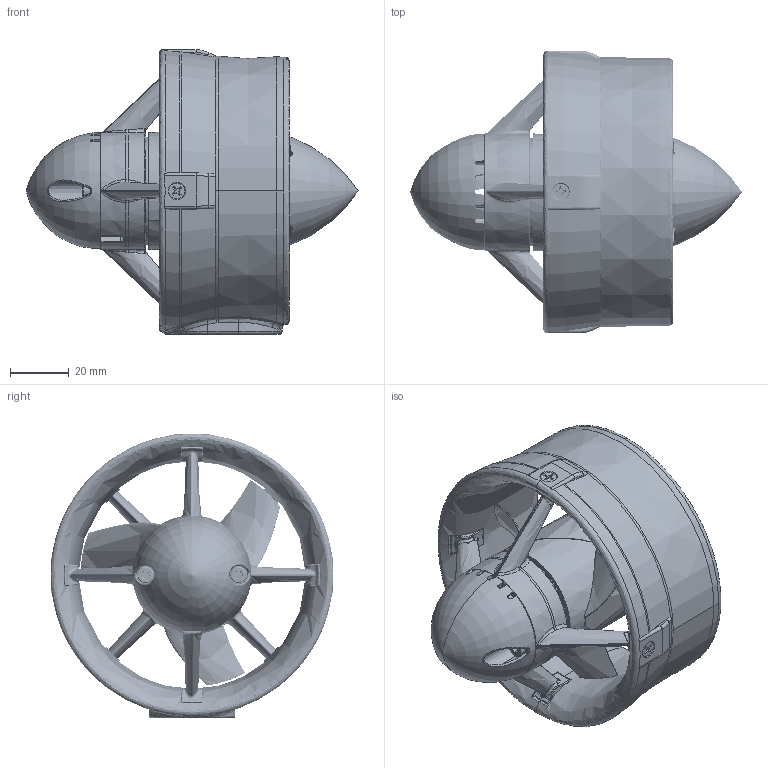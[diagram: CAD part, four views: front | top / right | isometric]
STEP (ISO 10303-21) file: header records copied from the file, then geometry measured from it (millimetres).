
FILE_DESCRIPTION (( 'STEP AP214' ), '1' );
FILE_NAME ('T200.STEP', '2024-10-07T23:16:12', ( '' ), ( '' ), 'SwSTEP 2.0', 'SolidWorks 2024', '' );
FILE_SCHEMA (( 'AUTOMOTIVE_DESIGN' ));
Length unit declared in the file: millimetre
Products named in the file (16): T200-ASM-STATOR-BASE-ORING_Pubilc ; M3-12-SS316-FLAT-HEAD-PHILLIPS-SCREW_95844A250; THREADED-INSERT-M3X0.5-6-R1; T200; T200-CORE_T200-CORE-STD; T200-NOZZLE; M6X1-8-SS316-HEX-THREADED-INSERT; M3X0.5-6-SS316-THREADED-INSERT; T200-ELEC-WIRING-PCB-R3; M3X0.5-8-SS316-SOCKET-HEAD-CAP-SCREW; T200-P-PROPELLER-CW-R3_2xx; M4X0.7-4-SS316-CUP-POINT-SET-SCREW_92029A140; M3X0.5-5-SS316-BUTTON-HEAD-CAP-SCREW; T200-ORING-STATOR-BASE_Public - 1; T200-NOSE-CONE
Assembly tree (23 placements, depth 4):
  T200
    T200-CORE_T200-CORE-STD
      T200-ASM-STATOR-BASE-ORING_Pubilc 
        T200-ORING-STATOR-BASE_Public - 1
        THREADED-INSERT-M3X0.5-6-R1  x2
      T200-ELEC-WIRING-PCB-R3
    T200-NOZZLE
      T200-NOZZLE
      M3X0.5-6-SS316-THREADED-INSERT  x4
      M6X1-8-SS316-HEX-THREADED-INSERT
    T200-NOSE-CONE
    M4X0.7-4-SS316-CUP-POINT-SET-SCREW_92029A140
    T200-P-PROPELLER-CW-R3_2xx
    M3X0.5-5-SS316-BUTTON-HEAD-CAP-SCREW
    M3X0.5-8-SS316-SOCKET-HEAD-CAP-SCREW  x2
    M3-12-SS316-FLAT-HEAD-PHILLIPS-SCREW_95844A250  x4
Bounding box: 113.42 x 96.55 x 97.3 mm (x, y, z)
Volume: 159663.1 mm3; surface area: 73227.2 mm2
Topology: 20 solids, 22 shells, 3407 faces, 8781 edges, 5373 vertices
Faces by surface type: cylinder 1003, plane 864, bspline 717, cone 558, torus 209, sphere 56
Entity records: 115482 total; most frequent: CARTESIAN_POINT 65593, ORIENTED_EDGE 11654, DIRECTION 8822, EDGE_CURVE 5827, AXIS2_PLACEMENT_3D 3588, VERTEX_POINT 3564, EDGE_LOOP 2433, FACE_OUTER_BOUND 2335
